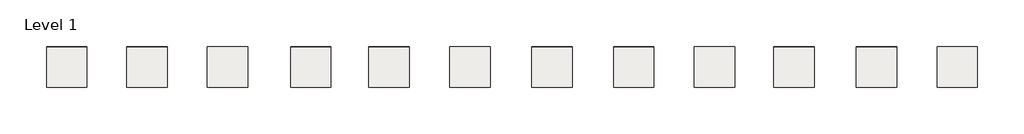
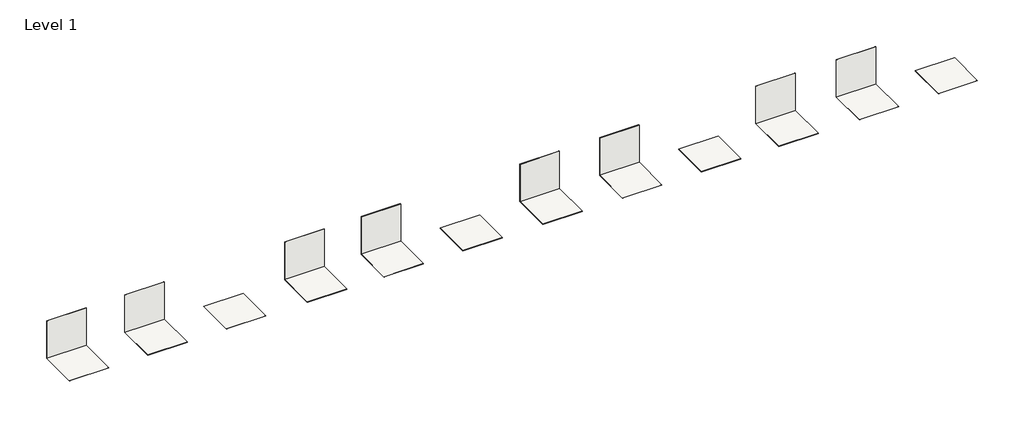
# One storey: 20 coverings.
"""IFC4 building model written with IfcOpenShell, lengths in millimetres."""

from ifc_helpers import new_model, si_unit, frame, origin, origin_with_axes, place, context, project, spatial, polyline, outline, extrude, element, save

model = new_model("IFC4")

# Units and contexts
model_context = context("Model", 3, world=origin())
ifc_project = project(units=[si_unit("LENGTHUNIT", "METRE", prefix="MILLI")], contexts=[model_context])

# Site, building, storey
site = spatial("IfcSite", under=ifc_project)
building = spatial("IfcBuilding", under=site)
storey = spatial("IfcBuildingStorey", under=building, Name="Level 1", Elevation=0.0)

# Coverings
placement = place(None, origin())
element("IfcCovering", 1, ObjectType="REVIGRES-PIGMENTO-BASE-30X30-NAT-GRAFITE", at=placement, inside=storey, context=model_context, shape_type="SweptSolid", body=[
    extrude(outline(polyline([(17177.2564127, -3558.1374199), (16177.2564127, -3558.1374199), (16177.2564127, -3551.1374199), (17177.2564127, -3551.1374199), (17177.2564127, -3558.1374199)])), origin_with_axes(), (0.0, 0.0, 1.0), 1000.0),
])
element("IfcCovering", 2, ObjectType="REVIGRES-PIGMENTO-BASE-30X30-NAT-GRAFITE", at=placement, inside=storey, context=model_context, shape_type="SweptSolid", body=[
    extrude(outline(polyline([(17177.2564127, -3558.1374199), (17177.2564127, -4558.8874199), (16177.2564127, -4558.8874199), (16177.2564127, -3558.1374199), (17177.2564127, -3558.1374199)])), frame((0.0, 0.0, -7.0), z_axis=(0.0, 0.0, 1.0), x_axis=(1.0, 0.0, 0.0)), (0.0, 0.0, 1.0), 7.0),
])
element("IfcCovering", 3, ObjectType="REVIGRES-PIGMENTO-BASE-30X30-ANTISLIPNAT-CHUMBO", at=placement, inside=storey, context=model_context, shape_type="SweptSolid", body=[
    extrude(outline(polyline([(13150.8728798, -3558.1374199), (12150.8728798, -3558.1374199), (12150.8728798, -3551.1374199), (13150.8728798, -3551.1374199), (13150.8728798, -3558.1374199)])), origin_with_axes(), (0.0, 0.0, 1.0), 1000.0),
])
element("IfcCovering", 4, ObjectType="REVIGRES-PIGMENTO-BASE-30X30-ANTISLIPNAT-CHUMBO", at=placement, inside=storey, context=model_context, shape_type="SweptSolid", body=[
    extrude(outline(polyline([(13150.8728798, -3558.1374199), (13150.8728798, -4558.8874199), (12150.8728798, -4558.8874199), (12150.8728798, -3558.1374199), (13150.8728798, -3558.1374199)])), frame((0.0, 0.0, -7.0), z_axis=(0.0, 0.0, 1.0), x_axis=(1.0, 0.0, 0.0)), (0.0, 0.0, 1.0), 7.0),
])
element("IfcCovering", 5, ObjectType="REVIGRES-PIGMENTO-BASE-30X30-NAT-CHUMBO", at=placement, inside=storey, context=model_context, shape_type="SweptSolid", body=[
    extrude(outline(polyline([(11210.8728798, -3558.1374199), (10210.8728798, -3558.1374199), (10210.8728798, -3551.1374199), (11210.8728798, -3551.1374199), (11210.8728798, -3558.1374199)])), origin_with_axes(), (0.0, 0.0, 1.0), 1000.0),
])
element("IfcCovering", 6, ObjectType="REVIGRES-PIGMENTO-BASE-30X30-NAT-CHUMBO", at=placement, inside=storey, context=model_context, shape_type="SweptSolid", body=[
    extrude(outline(polyline([(11210.8728798, -3558.1374199), (11210.8728798, -4558.8874199), (10210.8728798, -4558.8874199), (10210.8728798, -3558.1374199), (11210.8728798, -3558.1374199)])), frame((0.0, 0.0, -7.0), z_axis=(0.0, 0.0, 1.0), x_axis=(1.0, 0.0, 0.0)), (0.0, 0.0, 1.0), 7.0),
])
element("IfcCovering", 7, ObjectType="REVIGRES-PIGMENTO-BASE-30X30-ANTISLIPNAT-AREIA", at=placement, inside=storey, context=model_context, shape_type="SweptSolid", body=[
    extrude(outline(polyline([(7157.2564127, -3558.1374199), (6157.2564127, -3558.1374199), (6157.2564127, -3551.1374199), (7157.2564127, -3551.1374199), (7157.2564127, -3558.1374199)])), origin_with_axes(), (0.0, 0.0, 1.0), 1000.0),
])
element("IfcCovering", 8, ObjectType="REVIGRES-PIGMENTO-BASE-30X30-ANTISLIPNAT-AREIA", at=placement, inside=storey, context=model_context, shape_type="SweptSolid", body=[
    extrude(outline(polyline([(7157.2564127, -3558.1374199), (7157.2564127, -4558.8874199), (6157.2564127, -4558.8874199), (6157.2564127, -3558.1374199), (7157.2564127, -3558.1374199)])), frame((0.0, 0.0, -7.0), z_axis=(0.0, 0.0, 1.0), x_axis=(1.0, 0.0, 0.0)), (0.0, 0.0, 1.0), 7.0),
])
element("IfcCovering", 9, ObjectType="REVIGRES-PIGMENTO-BASE-30X30-NAT-AREIA", at=placement, inside=storey, context=model_context, shape_type="SweptSolid", body=[
    extrude(outline(polyline([(5177.2564127, -3558.1374199), (4177.2564127, -3558.1374199), (4177.2564127, -3551.1374199), (5177.2564127, -3551.1374199), (5177.2564127, -3558.1374199)])), origin_with_axes(), (0.0, 0.0, 1.0), 1000.0),
])
element("IfcCovering", 10, ObjectType="REVIGRES-PIGMENTO-BASE-30X30-NAT-AREIA", at=placement, inside=storey, context=model_context, shape_type="SweptSolid", body=[
    extrude(outline(polyline([(5177.2564127, -3558.1374199), (5177.2564127, -4558.8874199), (4177.2564127, -4558.8874199), (4177.2564127, -3558.1374199), (5177.2564127, -3558.1374199)])), frame((0.0, 0.0, -7.0), z_axis=(0.0, 0.0, 1.0), x_axis=(1.0, 0.0, 0.0)), (0.0, 0.0, 1.0), 7.0),
])
element("IfcCovering", 11, ObjectType="REVIGRES-PIGMENTO-BASE-30X30-ANTISLIPNAT-GRAFITE", at=placement, inside=storey, context=model_context, shape_type="SweptSolid", body=[
    extrude(outline(polyline([(19197.2564127, -3558.1374199), (18197.2564127, -3558.1374199), (18197.2564127, -3551.1374199), (19197.2564127, -3551.1374199), (19197.2564127, -3558.1374199)])), origin_with_axes(), (0.0, 0.0, 1.0), 1000.0),
])
element("IfcCovering", 12, ObjectType="REVIGRES-PIGMENTO-BASE-30X30-ANTISLIPNAT-GRAFITE", at=placement, inside=storey, context=model_context, shape_type="SweptSolid", body=[
    extrude(outline(polyline([(19197.2564127, -3558.1374199), (19197.2564127, -4558.8874199), (18197.2564127, -4558.8874199), (18197.2564127, -3558.1374199), (19197.2564127, -3558.1374199)])), frame((0.0, 0.0, -7.0), z_axis=(0.0, 0.0, 1.0), x_axis=(1.0, 0.0, 0.0)), (0.0, 0.0, 1.0), 7.0),
])
element("IfcCovering", 13, ObjectType="REVIGRES-PIGMENTO-BASE-30X30-NAT-LUNA", at=placement, inside=storey, context=model_context, shape_type="SweptSolid", body=[
    extrude(outline(polyline([(23157.2564127, -3558.1374199), (22157.2564127, -3558.1374199), (22157.2564127, -3551.1374199), (23157.2564127, -3551.1374199), (23157.2564127, -3558.1374199)])), origin_with_axes(), (0.0, 0.0, 1.0), 1000.0),
])
element("IfcCovering", 14, ObjectType="REVIGRES-PIGMENTO-BASE-30X30-NAT-LUNA", at=placement, inside=storey, context=model_context, shape_type="SweptSolid", body=[
    extrude(outline(polyline([(23157.2564127, -3558.1374199), (23157.2564127, -4558.8874199), (22157.2564127, -4558.8874199), (22157.2564127, -3558.1374199), (23157.2564127, -3558.1374199)])), frame((0.0, 0.0, -7.0), z_axis=(0.0, 0.0, 1.0), x_axis=(1.0, 0.0, 0.0)), (0.0, 0.0, 1.0), 7.0),
])
element("IfcCovering", 15, ObjectType="REVIGRES-PIGMENTO-BASE-30X30-ANTISLIPNAT-LUNA", at=placement, inside=storey, context=model_context, shape_type="SweptSolid", body=[
    extrude(outline(polyline([(25197.2564127, -3558.1374199), (24197.2564127, -3558.1374199), (24197.2564127, -3551.1374199), (25197.2564127, -3551.1374199), (25197.2564127, -3558.1374199)])), origin_with_axes(), (0.0, 0.0, 1.0), 1000.0),
])
element("IfcCovering", 16, ObjectType="REVIGRES-PIGMENTO-BASE-30X30-ANTISLIPNAT-LUNA", at=placement, inside=storey, context=model_context, shape_type="SweptSolid", body=[
    extrude(outline(polyline([(25197.2564127, -3558.1374199), (25197.2564127, -4558.8874199), (24197.2564127, -4558.8874199), (24197.2564127, -3558.1374199), (25197.2564127, -3558.1374199)])), frame((0.0, 0.0, -7.0), z_axis=(0.0, 0.0, 1.0), x_axis=(1.0, 0.0, 0.0)), (0.0, 0.0, 1.0), 7.0),
])
element("IfcCovering", 17, ObjectType="REVIGRES-PIGMENTO-BASE-30X30-ESTRNAT-AREIA", at=placement, inside=storey, context=model_context, shape_type="SweptSolid", body=[
    extrude(outline(polyline([(9157.2564127, -3558.1374199), (9157.2564127, -4558.8874199), (8157.2564127, -4558.8874199), (8157.2564127, -3558.1374199), (9157.2564127, -3558.1374199)])), frame((0.0, 0.0, -7.0), z_axis=(0.0, 0.0, 1.0), x_axis=(1.0, 0.0, 0.0)), (0.0, 0.0, 1.0), 7.0),
])
element("IfcCovering", 18, ObjectType="REVIGRES-PIGMENTO-BASE-30X30-ESTRNAT-CHUMBO", at=placement, inside=storey, context=model_context, shape_type="SweptSolid", body=[
    extrude(outline(polyline([(15150.8728798, -3558.1374199), (15150.8728798, -4558.8874199), (14150.8728798, -4558.8874199), (14150.8728798, -3558.1374199), (15150.8728798, -3558.1374199)])), frame((0.0, 0.0, -7.0), z_axis=(0.0, 0.0, 1.0), x_axis=(1.0, 0.0, 0.0)), (0.0, 0.0, 1.0), 7.0),
])
element("IfcCovering", 19, ObjectType="REVIGRES-PIGMENTO-BASE-30X30-ESTRNAT-GRAFITE", at=placement, inside=storey, context=model_context, shape_type="SweptSolid", body=[
    extrude(outline(polyline([(21197.2564127, -3558.1374199), (21197.2564127, -4558.8874199), (20197.2564127, -4558.8874199), (20197.2564127, -3558.1374199), (21197.2564127, -3558.1374199)])), frame((0.0, 0.0, -7.0), z_axis=(0.0, 0.0, 1.0), x_axis=(1.0, 0.0, 0.0)), (0.0, 0.0, 1.0), 7.0),
])
element("IfcCovering", 20, ObjectType="REVIGRES-PIGMENTO-BASE-30X30-ESTRNAT-LUNA", at=placement, inside=storey, context=model_context, shape_type="SweptSolid", body=[
    extrude(outline(polyline([(27197.2564127, -3558.1374199), (27197.2564127, -4558.8874199), (26197.2564127, -4558.8874199), (26197.2564127, -3558.1374199), (27197.2564127, -3558.1374199)])), frame((0.0, 0.0, -7.0), z_axis=(0.0, 0.0, 1.0), x_axis=(1.0, 0.0, 0.0)), (0.0, 0.0, 1.0), 7.0),
])

save(model, "model.ifc")
